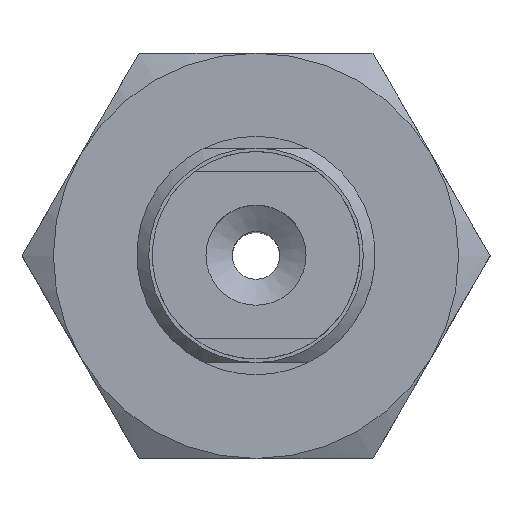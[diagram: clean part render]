
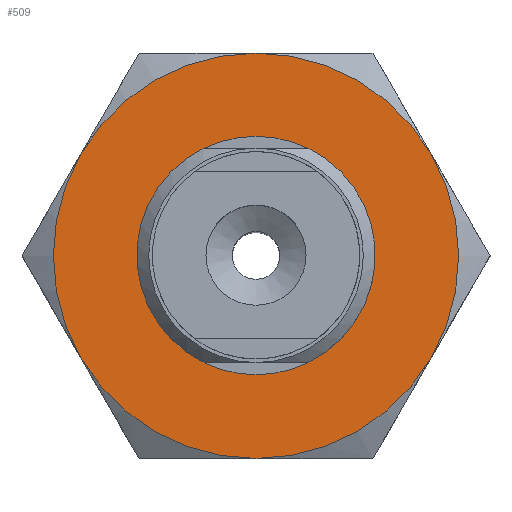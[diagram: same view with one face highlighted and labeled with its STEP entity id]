
A CAD part, top view. The second image highlights one B-rep face of the part: STEP entity #509.
In plain terms, the highlighted planar face has unit normal (0, 0, 1).
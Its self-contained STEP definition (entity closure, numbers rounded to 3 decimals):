
#509=ADVANCED_FACE('',(#717,#718),#719,.T.);
#717=FACE_BOUND('',#1003,.T.);
#718=FACE_OUTER_BOUND('',#1004,.T.);
#719=PLANE('',#1005);
#1003=EDGE_LOOP('',(#1689));
#1004=EDGE_LOOP('',(#1690,#1691,#1692,#1693,#1694,#1695));
#1005=AXIS2_PLACEMENT_3D('',#1696,#1697,#1698);
#1689=ORIENTED_EDGE('',*,*,#2120,.F.);
#1690=ORIENTED_EDGE('',*,*,#2125,.F.);
#1691=ORIENTED_EDGE('',*,*,#2127,.F.);
#1692=ORIENTED_EDGE('',*,*,#2106,.F.);
#1693=ORIENTED_EDGE('',*,*,#2101,.F.);
#1694=ORIENTED_EDGE('',*,*,#2129,.F.);
#1695=ORIENTED_EDGE('',*,*,#2126,.F.);
#1696=CARTESIAN_POINT('',(-9.815,-8.5,4.0));
#1697=DIRECTION('',(0.0,0.0,1.0));
#1698=DIRECTION('',(1.0,0.0,0.0));
#2101=EDGE_CURVE('',#2381,#2384,#2385,.T.);
#2106=EDGE_CURVE('',#2384,#2369,#2391,.T.);
#2120=EDGE_CURVE('',#2415,#2415,#2416,.T.);
#2125=EDGE_CURVE('',#2410,#2419,#2422,.T.);
#2126=EDGE_CURVE('',#2419,#2404,#2423,.T.);
#2127=EDGE_CURVE('',#2369,#2410,#2424,.T.);
#2129=EDGE_CURVE('',#2404,#2381,#2426,.T.);
#2369=VERTEX_POINT('',#2866);
#2381=VERTEX_POINT('',#2896);
#2384=VERTEX_POINT('',#2907);
#2385=CIRCLE('',#2908,8.5);
#2391=CIRCLE('',#2930,8.5);
#2404=VERTEX_POINT('',#2960);
#2410=VERTEX_POINT('',#2979);
#2415=VERTEX_POINT('',#2992);
#2416=CIRCLE('',#2993,4.5);
#2419=VERTEX_POINT('',#3000);
#2422=CIRCLE('',#3011,8.5);
#2423=CIRCLE('',#3012,8.5);
#2424=CIRCLE('',#3013,8.5);
#2426=CIRCLE('',#3015,8.5);
#2866=CARTESIAN_POINT('',(7.361,-4.25,4.0));
#2896=CARTESIAN_POINT('',(0.,8.5,4.0));
#2907=CARTESIAN_POINT('',(7.361,4.25,4.0));
#2908=AXIS2_PLACEMENT_3D('',#3375,#3376,#3377);
#2930=AXIS2_PLACEMENT_3D('',#3378,#3379,#3380);
#2960=CARTESIAN_POINT('',(-7.361,4.25,4.0));
#2979=CARTESIAN_POINT('',(0.,-8.5,4.0));
#2992=CARTESIAN_POINT('',(0.0,-4.5,4.0));
#2993=AXIS2_PLACEMENT_3D('',#3389,#3390,#3391);
#3000=CARTESIAN_POINT('',(-7.361,-4.25,4.0));
#3011=AXIS2_PLACEMENT_3D('',#3395,#3396,#3397);
#3012=AXIS2_PLACEMENT_3D('',#3398,#3399,#3400);
#3013=AXIS2_PLACEMENT_3D('',#3401,#3402,#3403);
#3015=AXIS2_PLACEMENT_3D('',#3407,#3408,#3409);
#3375=CARTESIAN_POINT('',(0.,0.,4.0));
#3376=DIRECTION('',(0.,0.,-1.0));
#3377=DIRECTION('',(0.866,0.5,0.));
#3378=CARTESIAN_POINT('',(0.,0.,4.0));
#3379=DIRECTION('',(0.,0.,-1.0));
#3380=DIRECTION('',(0.866,0.5,0.));
#3389=CARTESIAN_POINT('',(0.0,0.0,4.0));
#3390=DIRECTION('',(0.0,0.,1.0));
#3391=DIRECTION('',(0.0,-1.0,0.));
#3395=CARTESIAN_POINT('',(0.,0.,4.0));
#3396=DIRECTION('',(0.,0.,-1.0));
#3397=DIRECTION('',(0.866,0.5,0.));
#3398=CARTESIAN_POINT('',(0.,0.,4.0));
#3399=DIRECTION('',(0.,0.,-1.0));
#3400=DIRECTION('',(0.866,0.5,0.));
#3401=CARTESIAN_POINT('',(0.,0.,4.0));
#3402=DIRECTION('',(0.,0.,-1.0));
#3403=DIRECTION('',(0.866,0.5,0.));
#3407=CARTESIAN_POINT('',(0.,0.,4.0));
#3408=DIRECTION('',(0.,0.,-1.0));
#3409=DIRECTION('',(0.866,0.5,0.));
